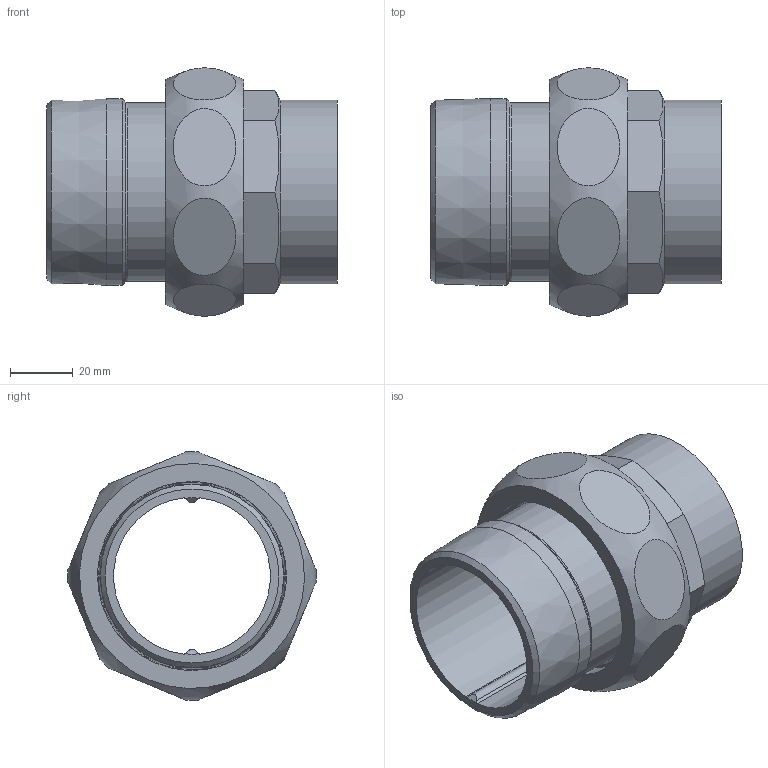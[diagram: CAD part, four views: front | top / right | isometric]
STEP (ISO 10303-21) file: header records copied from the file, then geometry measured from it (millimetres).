
FILE_DESCRIPTION((''),'2;1');
FILE_NAME('G:\Engineering\Public\RYSUNKI\SANHA POLSKA\4331g\step\14331g_54-2(2).stp','2013-09-18T07:50:35',('haldrzynski'),(''),'Autodesk Inventor 2009','Autodesk Inventor 2009','');
FILE_SCHEMA(('AUTOMOTIVE_DESIGN { 1 0 10303 214 1 1 1 1 }'));
Length unit declared in the file: millimetre
Products named in the file (5): 14331g_54-2(2); 14371g_2-238(1); 14374_238(0); 1DCU238; 14370_54-238(1)
Assembly tree (4 placements, depth 2):
  14331g_54-2(2)
    14371g_2-238(1)
    14374_238(0)
    1DCU238
    14370_54-238(1)
Bounding box: 93 x 79.49 x 79.49 mm (x, y, z)
Volume: 105049.3 mm3; surface area: 54231.3 mm2
Topology: 4 solids, 4 shells, 61 faces, 128 edges, 86 vertices
Faces by surface type: plane 28, cylinder 19, cone 11, bspline 3
Full cylindrical faces by diameter (mm): 52 x1, 54 x1, 55 x1, 57 x1, 59 x1, 59.81 x1, 60.5 x1, 65 x1, 65.5 x1, 66.44 x1, 69.4 x1
Entity records: 3310 total; most frequent: CARTESIAN_POINT 1970, DIRECTION 252, ORIENTED_EDGE 206, AXIS2_PLACEMENT_3D 114, EDGE_CURVE 103, EDGE_LOOP 102, VERTEX_POINT 83, FACE_OUTER_BOUND 61
